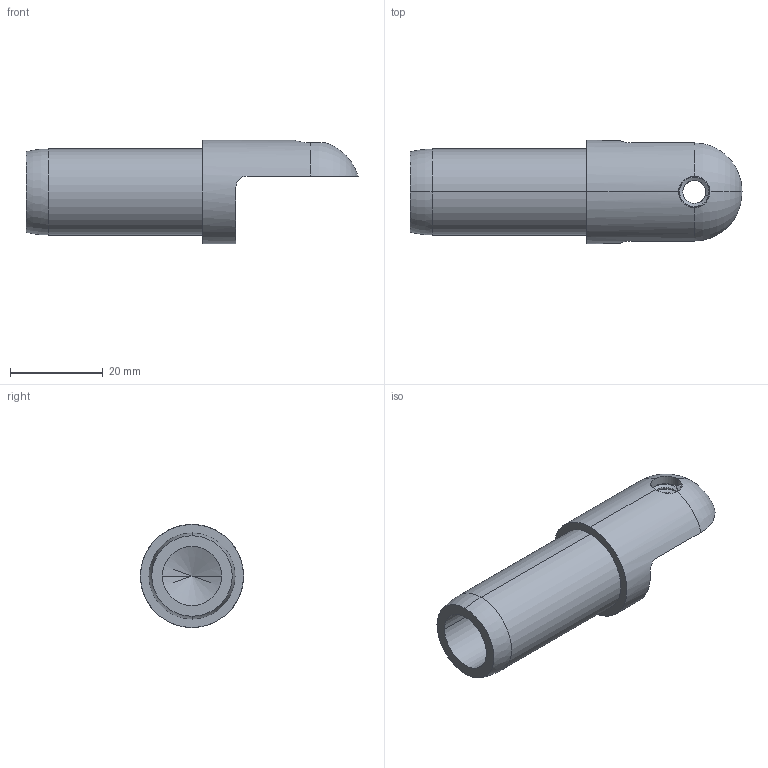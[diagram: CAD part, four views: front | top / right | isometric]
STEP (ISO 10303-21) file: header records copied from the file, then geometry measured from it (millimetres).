
FILE_DESCRIPTION (( 'STEP AP214' ), '1' );
FILE_NAME ('DRP-002-0528-00.STEP', '2013-12-20T17:34:53', ( 'ydmin' ), ( 'Microsoft' ), 'SwSTEP 2.0', 'SolidWorks 2013', '' );
FILE_SCHEMA (( 'AUTOMOTIVE_DESIGN' ));
Length unit declared in the file: inch
Products named in the file (1): DRP-002-0528-00
Bounding box: 71.54 x 22.23 x 22.23 mm (x, y, z)
Volume: 10416.5 mm3; surface area: 6578.8 mm2
Topology: 2 solids, 2 shells, 29 faces, 69 edges, 43 vertices
Faces by surface type: cylinder 9, bspline 8, plane 6, torus 4, cone 2
Entity records: 2871 total; most frequent: CARTESIAN_POINT 1829, ORIENTED_EDGE 134, DIRECTION 116, EDGE_CURVE 67, AXIS2_PLACEMENT_3D 43, VERTEX_POINT 43, DIMENSIONAL_EXPONENTS 33, LENGTH_MEASURE_WITH_UNIT 33
